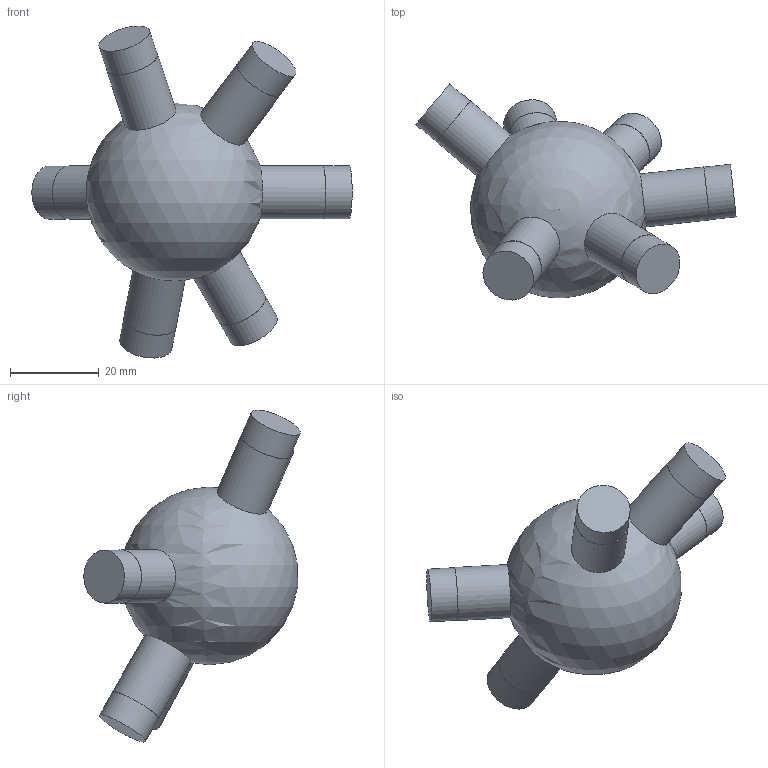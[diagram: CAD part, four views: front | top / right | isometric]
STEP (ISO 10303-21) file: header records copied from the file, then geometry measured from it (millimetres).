
FILE_DESCRIPTION(('Open CASCADE Model'),'2;1');
FILE_NAME('Open CASCADE Shape Model','2026-10-21T12:47:57',('Author'),( 'Open CASCADE'),'Open CASCADE STEP processor 7.9','Open CASCADE 7.9' ,'Unknown');
FILE_SCHEMA(('AUTOMOTIVE_DESIGN { 1 0 10303 214 1 1 1 1 }'));
Length unit declared in the file: millimetre
Products named in the file (1): Open CASCADE STEP translator 7.9 26
Bounding box: 72.04 x 48.66 x 74.68 mm (x, y, z)
Volume: 46716.5 mm3; surface area: 9528.8 mm2
Topology: 1 solids, 1 shells, 25 faces, 41 edges, 28 vertices
Faces by surface type: cylinder 12, plane 12, sphere 1
Full cylindrical faces by diameter (mm): 11.9 x6, 12 x6
Entity records: 1543 total; most frequent: CARTESIAN_POINT 609, DIRECTION 192, ORIENTED_EDGE 80, PCURVE 80, DEFINITIONAL_REPRESENTATION 80, LINE 66, VECTOR 66, AXIS2_PLACEMENT_3D 54
